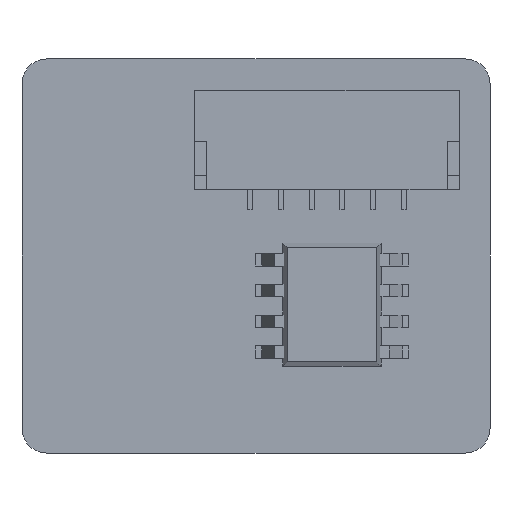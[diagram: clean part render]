
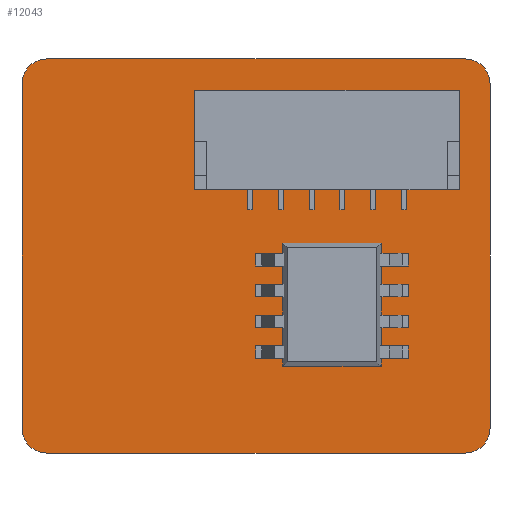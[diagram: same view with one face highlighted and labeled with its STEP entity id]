
A CAD part, front view. The second image highlights one B-rep face of the part: STEP entity #12043.
In plain terms, the highlighted planar face has unit normal (0, -1, 0).
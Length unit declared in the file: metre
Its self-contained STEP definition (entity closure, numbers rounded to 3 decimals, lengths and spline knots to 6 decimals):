
#2 = VERTEX_POINT ( 'NONE', #6119 ) ;
#304 = VERTEX_POINT ( 'NONE', #8474 ) ;
#943 = EDGE_CURVE ( 'NONE', #2696, #6831, #2038, .T. ) ;
#968 = DIRECTION ( 'NONE',  ( 1., 0., 0. ) ) ;
#990 = VERTEX_POINT ( 'NONE', #12792 ) ;
#1529 = AXIS2_PLACEMENT_3D ( 'NONE', #11125, #10176, #3318 ) ;
#1534 = EDGE_CURVE ( 'NONE', #2, #5600, #3011, .T. ) ;
#1781 = ORIENTED_EDGE ( 'NONE', *, *, #9997, .T. ) ;
#1849 = ORIENTED_EDGE ( 'NONE', *, *, #5338, .T. ) ;
#2038 = CIRCLE ( 'NONE', #11176, 0.001 ) ;
#2696 = VERTEX_POINT ( 'NONE', #4200 ) ;
#2807 = VERTEX_POINT ( 'NONE', #11218 ) ;
#2880 = PLANE ( 'NONE',  #5637 ) ;
#2915 = DIRECTION ( 'NONE',  ( 0., 0., 1. ) ) ;
#3011 = LINE ( 'NONE', #10993, #6248 ) ;
#3089 = CARTESIAN_POINT ( 'NONE',  ( 0.0085, -0.0008, 0.007 ) ) ;
#3318 = DIRECTION ( 'NONE',  ( 0., 0., 1. ) ) ;
#3713 = VERTEX_POINT ( 'NONE', #5504 ) ;
#3766 = CARTESIAN_POINT ( 'NONE',  ( -0.0095, -0.0008, 0.008 ) ) ;
#3866 = CARTESIAN_POINT ( 'NONE',  ( -0.0085, -0.0008, 0.007 ) ) ;
#3935 = DIRECTION ( 'NONE',  ( 0., 0., -1. ) ) ;
#4150 = LINE ( 'NONE', #7966, #9601 ) ;
#4200 = CARTESIAN_POINT ( 'NONE',  ( -0.0085, -0.0008, 0.008 ) ) ;
#4798 = DIRECTION ( 'NONE',  ( 0., 1., 0. ) ) ;
#4810 = EDGE_CURVE ( 'NONE', #2807, #990, #4150, .T. ) ;
#4858 = DIRECTION ( 'NONE',  ( 0., 0., 1. ) ) ;
#5338 = EDGE_CURVE ( 'NONE', #2, #990, #7203, .T. ) ;
#5504 = CARTESIAN_POINT ( 'NONE',  ( -0.0095, -0.0008, -0.007 ) ) ;
#5513 = ORIENTED_EDGE ( 'NONE', *, *, #943, .T. ) ;
#5600 = VERTEX_POINT ( 'NONE', #7300 ) ;
#5637 = AXIS2_PLACEMENT_3D ( 'NONE', #10742, #4798, #2915 ) ;
#5674 = FACE_OUTER_BOUND ( 'NONE', #8059, .T. ) ;
#5749 = AXIS2_PLACEMENT_3D ( 'NONE', #10411, #6407, #6314 ) ;
#5940 = LINE ( 'NONE', #10442, #9831 ) ;
#6119 = CARTESIAN_POINT ( 'NONE',  ( 0.0085, -0.0008, -0.008 ) ) ;
#6183 = LINE ( 'NONE', #3766, #10555 ) ;
#6248 = VECTOR ( 'NONE', #12332, 1. ) ;
#6314 = DIRECTION ( 'NONE',  ( 0., 0., 1. ) ) ;
#6407 = DIRECTION ( 'NONE',  ( 0., -1., 0. ) ) ;
#6831 = VERTEX_POINT ( 'NONE', #7684 ) ;
#7067 = ORIENTED_EDGE ( 'NONE', *, *, #8663, .F. ) ;
#7125 = EDGE_CURVE ( 'NONE', #3713, #6831, #5940, .T. ) ;
#7165 = CIRCLE ( 'NONE', #5749, 0.001 ) ;
#7203 = CIRCLE ( 'NONE', #1529, 0.001 ) ;
#7300 = CARTESIAN_POINT ( 'NONE',  ( -0.0085, -0.0008, -0.008 ) ) ;
#7324 = EDGE_CURVE ( 'NONE', #2807, #304, #8976, .T. ) ;
#7684 = CARTESIAN_POINT ( 'NONE',  ( -0.0095, -0.0008, 0.007 ) ) ;
#7966 = CARTESIAN_POINT ( 'NONE',  ( 0.0095, -0.0008, -0.008 ) ) ;
#8007 = ORIENTED_EDGE ( 'NONE', *, *, #7125, .F. ) ;
#8059 = EDGE_LOOP ( 'NONE', ( #9598, #1849, #9779, #12675, #7067, #5513, #8007, #1781 ) ) ;
#8474 = CARTESIAN_POINT ( 'NONE',  ( 0.0085, -0.0008, 0.008 ) ) ;
#8663 = EDGE_CURVE ( 'NONE', #2696, #304, #6183, .T. ) ;
#8976 = CIRCLE ( 'NONE', #11499, 0.001 ) ;
#9275 = DIRECTION ( 'NONE',  ( 0., 0., 1. ) ) ;
#9598 = ORIENTED_EDGE ( 'NONE', *, *, #1534, .F. ) ;
#9601 = VECTOR ( 'NONE', #3935, 1. ) ;
#9779 = ORIENTED_EDGE ( 'NONE', *, *, #4810, .F. ) ;
#9831 = VECTOR ( 'NONE', #9275, 1. ) ;
#9997 = EDGE_CURVE ( 'NONE', #3713, #5600, #7165, .T. ) ;
#10176 = DIRECTION ( 'NONE',  ( 0., -1., 0. ) ) ;
#10411 = CARTESIAN_POINT ( 'NONE',  ( -0.0085, -0.0008, -0.007 ) ) ;
#10442 = CARTESIAN_POINT ( 'NONE',  ( -0.0095, -0.0008, -0.008 ) ) ;
#10555 = VECTOR ( 'NONE', #968, 1. ) ;
#10742 = CARTESIAN_POINT ( 'NONE',  ( 0., -0.0008, 0. ) ) ;
#10799 = DIRECTION ( 'NONE',  ( 0., -1., 0. ) ) ;
#10859 = DIRECTION ( 'NONE',  ( 0., -1., 0. ) ) ;
#10993 = CARTESIAN_POINT ( 'NONE',  ( -0.0095, -0.0008, -0.008 ) ) ;
#11125 = CARTESIAN_POINT ( 'NONE',  ( 0.0085, -0.0008, -0.007 ) ) ;
#11176 = AXIS2_PLACEMENT_3D ( 'NONE', #3866, #10799, #4858 ) ;
#11218 = CARTESIAN_POINT ( 'NONE',  ( 0.0095, -0.0008, 0.007 ) ) ;
#11499 = AXIS2_PLACEMENT_3D ( 'NONE', #3089, #10859, #11920 ) ;
#11920 = DIRECTION ( 'NONE',  ( 0., 0., 1. ) ) ;
#12043 = ADVANCED_FACE ( 'NONE', ( #5674 ), #2880, .F. ) ;
#12332 = DIRECTION ( 'NONE',  ( -1., 0., 0. ) ) ;
#12675 = ORIENTED_EDGE ( 'NONE', *, *, #7324, .T. ) ;
#12792 = CARTESIAN_POINT ( 'NONE',  ( 0.0095, -0.0008, -0.007 ) ) ;
